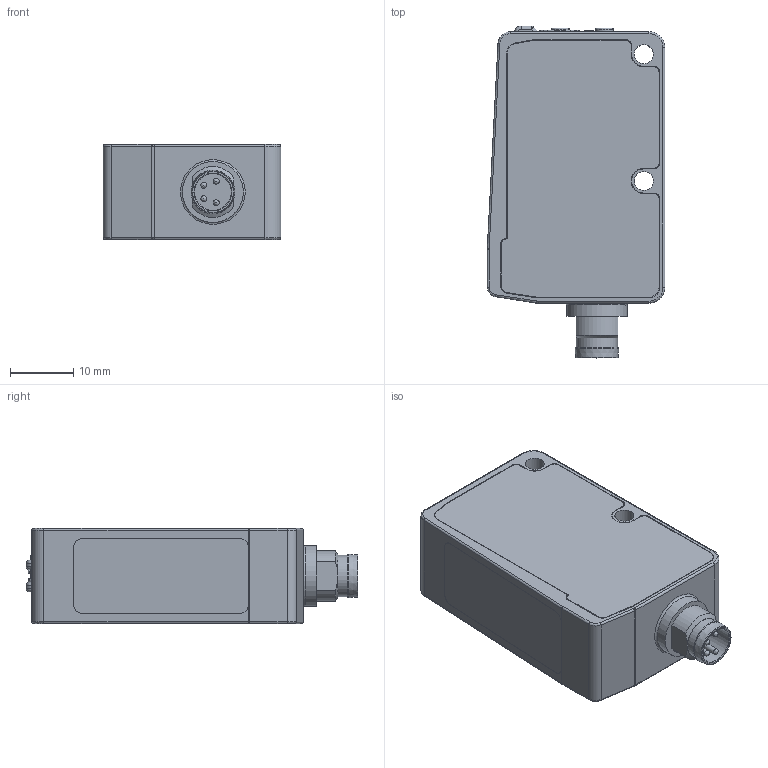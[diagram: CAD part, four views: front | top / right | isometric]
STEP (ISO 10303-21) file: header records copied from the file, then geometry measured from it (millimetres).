
FILE_DESCRIPTION(/* description */ (''),/* implementation_level */ '2;1');
FILE_NAME(/* name */ 'DSD-0931.stp',/* time_stamp */ '2020-09-22T16:51:17+02:00',/* author */ (''),/* organization */ (''),/* preprocessor_version */ 'ST-DEVELOPER v16.7',/* originating_system */ 'SIEMENS PLM Software NX 12.0',/* authorisation */ '');
FILE_SCHEMA (('AUTOMOTIVE_DESIGN { 1 0 10303 214 3 1 1 1 }'));
Length unit declared in the file: millimetre
Products named in the file (1): MBra1EA089BB28hq
Bounding box: 28 x 52.35 x 15 mm (x, y, z)
Volume: 17178.6 mm3; surface area: 5902.6 mm2
Topology: 1 solids, 3 shells, 295 faces, 714 edges, 445 vertices
Faces by surface type: cylinder 115, plane 111, bspline 39, torus 19, cone 6, sphere 5
Full cylindrical faces by diameter (mm): 0.95 x4, 1.4 x2, 2.85 x2, 2.95 x2, 3 x2, 4.2 x2, 5.77 x1, 6.52 x1, 6.9 x1, 9.6 x1
Entity records: 10208 total; most frequent: CARTESIAN_POINT 2630, DIRECTION 1413, ORIENTED_EDGE 1350, EDGE_CURVE 675, AXIS2_PLACEMENT_3D 560, VERTEX_POINT 434, EDGE_LOOP 349, ADVANCED_FACE 295
